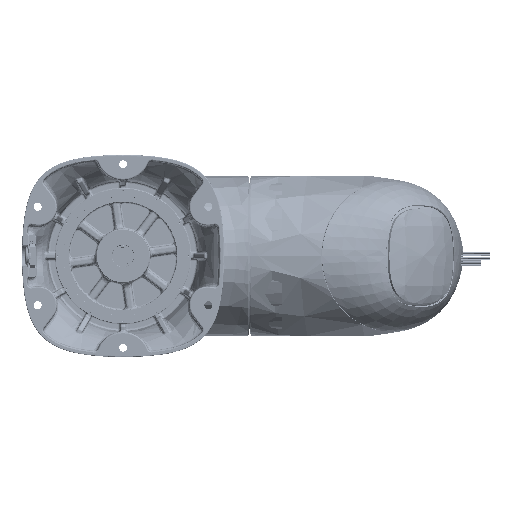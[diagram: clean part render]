
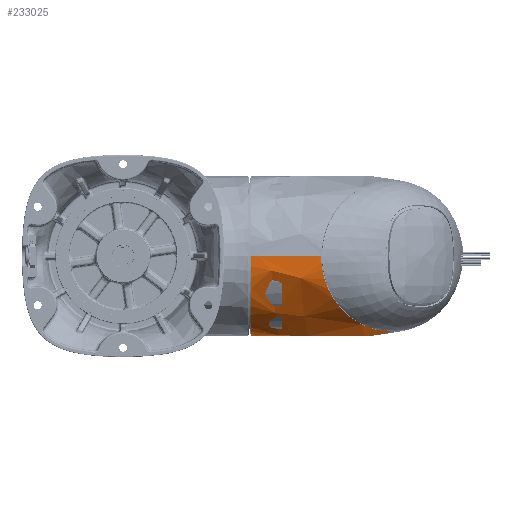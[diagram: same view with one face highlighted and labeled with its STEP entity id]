
A CAD part, front view. The second image highlights one B-rep face of the part: STEP entity #233025.
In plain terms, the highlighted free-form (B-spline) face has degree [5, 5] with [6, 7] control points.
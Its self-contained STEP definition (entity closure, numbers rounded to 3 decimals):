
#201922=CARTESIAN_POINT('',(-312.255,122.216,
-49.48));
#201923=CARTESIAN_POINT('',(-318.061,122.225,
-49.476));
#201924=CARTESIAN_POINT('',(-329.799,122.343,
-49.422));
#201925=CARTESIAN_POINT('',(-348.048,123.019,
-49.204));
#201926=CARTESIAN_POINT('',(-366.743,124.589,
-48.877));
#201927=CARTESIAN_POINT('',(-385.521,127.523,
-48.516));
#201928=CARTESIAN_POINT('',(-403.695,132.153,
-48.249));
#201929=CARTESIAN_POINT('',(-420.847,138.704,
-48.224));
#201930=CARTESIAN_POINT('',(-436.61,147.256,
-48.592));
#201931=CARTESIAN_POINT('',(-447.401,155.294,
-49.276));
#201932=CARTESIAN_POINT('',(-452.97,160.334,
-49.832));
#201933=CARTESIAN_POINT('',(-454.22,161.516,
-49.968));
#202082=CARTESIAN_POINT('',(-454.22,161.516,
-49.968));
#202083=CARTESIAN_POINT('',(-459.878,156.326,
-48.975));
#202084=CARTESIAN_POINT('',(-471.633,145.883,
-47.666));
#202085=CARTESIAN_POINT('',(-488.148,130.951,
-49.575));
#202086=CARTESIAN_POINT('',(-500.529,119.848,
-53.09));
#202087=CARTESIAN_POINT('',(-506.847,114.131,
-54.51));
#202157=CARTESIAN_POINT('',(-312.255,1.527,
-159.509));
#202158=CARTESIAN_POINT('',(-312.257,1.5,
-153.088));
#202159=CARTESIAN_POINT('',(-312.256,2.567,
-140.824));
#202160=CARTESIAN_POINT('',(-312.253,8.346,
-119.415));
#202161=CARTESIAN_POINT('',(-312.255,17.282,
-101.369));
#202162=CARTESIAN_POINT('',(-312.261,29.254,
-85.321));
#202163=CARTESIAN_POINT('',(-312.26,45.05,
-70.863));
#202164=CARTESIAN_POINT('',(-312.256,62.845,
-59.856));
#202165=CARTESIAN_POINT('',(-312.256,81.947,
-52.507));
#202166=CARTESIAN_POINT('',(-312.256,101.838,
-48.862));
#202167=CARTESIAN_POINT('',(-312.253,115.482,
-48.879));
#202168=CARTESIAN_POINT('',(-312.255,122.216,
-49.48));
#202170=CARTESIAN_POINT('',(-312.255,1.527,
-159.509));
#202171=CARTESIAN_POINT('',(-313.927,1.525,
-159.506));
#202172=CARTESIAN_POINT('',(-317.297,1.525,
-159.523));
#202173=CARTESIAN_POINT('',(-320.717,1.534,
-159.496));
#202174=CARTESIAN_POINT('',(-322.44,1.541,
-159.51));
#202176=CARTESIAN_POINT('',(-408.751,5.188,
-159.508));
#202177=CARTESIAN_POINT('',(-398.112,4.154,
-159.425));
#202178=CARTESIAN_POINT('',(-377.452,2.696,
-159.58));
#202179=CARTESIAN_POINT('',(-348.765,1.781,
-159.494));
#202180=CARTESIAN_POINT('',(-330.959,1.576,
-159.576));
#202181=CARTESIAN_POINT('',(-322.44,1.541,
-159.51));
#202183=CARTESIAN_POINT('',(-506.847,114.131,
-54.51));
#202184=CARTESIAN_POINT('',(-501.434,108.119,
-54.491));
#202185=CARTESIAN_POINT('',(-490.998,96.529,
-55.486));
#202186=CARTESIAN_POINT('',(-476.381,80.295,
-59.291));
#202187=CARTESIAN_POINT('',(-463.206,65.663,
-65.058));
#202188=CARTESIAN_POINT('',(-451.42,52.573,
-72.506));
#202189=CARTESIAN_POINT('',(-441.256,41.285,
-81.114));
#202190=CARTESIAN_POINT('',(-432.889,31.992,
-90.202));
#202191=CARTESIAN_POINT('',(-426.145,24.502,
-99.415));
#202192=CARTESIAN_POINT('',(-420.487,18.218,
-109.189));
#202193=CARTESIAN_POINT('',(-415.588,12.778,
-120.381));
#202194=CARTESIAN_POINT('',(-411.785,8.554,
-132.965));
#202195=CARTESIAN_POINT('',(-409.412,5.917,
-145.941));
#202196=CARTESIAN_POINT('',(-408.748,5.184,
-154.935));
#202197=CARTESIAN_POINT('',(-408.751,5.188,
-159.508));
#202278=CARTESIAN_POINT('',(-312.255,1.527,
-159.509));
#209256=VERTEX_POINT('',#202082);
#209257=VERTEX_POINT('',#202087);
#209282=VERTEX_POINT('',#202176);
#209283=VERTEX_POINT('',#202181);
#209785=VERTEX_POINT('',#202278);
#209787=VERTEX_POINT('',#202168);
#232970=CARTESIAN_POINT('',(-494.564,22.401,
-157.842));
#232971=CARTESIAN_POINT('',(-496.963,30.54,
-133.262));
#232972=CARTESIAN_POINT('',(-499.761,57.153,
-82.685));
#232973=CARTESIAN_POINT('',(-511.472,54.705,
-45.073));
#232974=CARTESIAN_POINT('',(-507.032,126.779,
-56.973));
#232975=CARTESIAN_POINT('',(-511.642,162.464,
-51.221));
#232976=CARTESIAN_POINT('',(-512.79,187.923,
-55.751));
#232977=CARTESIAN_POINT('',(-455.152,-0.262,
-166.828));
#232978=CARTESIAN_POINT('',(-456.443,23.368,
-139.581));
#232979=CARTESIAN_POINT('',(-463.054,20.2,
-72.697));
#232980=CARTESIAN_POINT('',(-462.845,73.14,
-77.947));
#232981=CARTESIAN_POINT('',(-471.474,91.075,
-35.349));
#232982=CARTESIAN_POINT('',(-470.127,166.889,
-42.802));
#232983=CARTESIAN_POINT('',(-472.387,179.526,
-51.764));
#232984=CARTESIAN_POINT('',(-416.685,12.77,
-145.391));
#232985=CARTESIAN_POINT('',(-420.518,-24.414,
-142.46));
#232986=CARTESIAN_POINT('',(-418.814,58.972,
-79.245));
#232987=CARTESIAN_POINT('',(-432.406,-7.818,
-58.296));
#232988=CARTESIAN_POINT('',(-425.567,111.413,
-29.606));
#232989=CARTESIAN_POINT('',(-430.124,141.7,
-54.588));
#232990=CARTESIAN_POINT('',(-430.833,173.075,
-49.279));
#232991=CARTESIAN_POINT('',(-370.847,2.365,
-217.736));
#232992=CARTESIAN_POINT('',(-376.316,11.878,
-156.691));
#232993=CARTESIAN_POINT('',(-385.318,-34.561,
-75.347));
#232994=CARTESIAN_POINT('',(-376.532,76.764,
-128.064));
#232995=CARTESIAN_POINT('',(-389.232,76.902,
-14.909));
#232996=CARTESIAN_POINT('',(-389.918,128.668,
-51.457));
#232997=CARTESIAN_POINT('',(-392.481,152.765,
-53.858));
#232998=CARTESIAN_POINT('',(-332.955,-1.466,
-170.164));
#232999=CARTESIAN_POINT('',(-333.207,-0.402,
-189.227));
#233000=CARTESIAN_POINT('',(-341.697,-1.577,
-89.861));
#233001=CARTESIAN_POINT('',(-343.823,35.076,
-80.13));
#233002=CARTESIAN_POINT('',(-345.099,51.813,
-48.143));
#233003=CARTESIAN_POINT('',(-349.064,125.491,
-45.182));
#233004=CARTESIAN_POINT('',(-350.331,141.806,
-53.83));
#233005=CARTESIAN_POINT('',(-290.939,19.714,
-196.368));
#233006=CARTESIAN_POINT('',(-293.476,-6.614,
-180.612));
#233007=CARTESIAN_POINT('',(-298.253,2.724,
-104.063));
#233008=CARTESIAN_POINT('',(-304.373,24.661,
-84.513));
#233009=CARTESIAN_POINT('',(-306.045,61.627,
-46.536));
#233010=CARTESIAN_POINT('',(-308.128,112.728,
-47.294));
#233011=CARTESIAN_POINT('',(-309.37,133.712,
-50.993));
#233012=B_SPLINE_SURFACE_WITH_KNOTS('',5,5,((#232970,#232971,#232972,#232973,
#232974,#232975,#232976),(#232977,#232978,#232979,#232980,#232981,#232982,
#232983),(#232984,#232985,#232986,#232987,#232988,#232989,#232990),(#232991,
#232992,#232993,#232994,#232995,#232996,#232997),(#232998,#232999,#233000,
#233001,#233002,#233003,#233004),(#233005,#233006,#233007,#233008,#233009,
#233010,#233011)),.UNSPECIFIED.,.F.,.F.,.F.,(6,6),(6,1,6),(0.,1.),(0.,
0.5,1.),.UNSPECIFIED.);
#233014=ORIENTED_EDGE('',*,*,#233013,.F.);
#233016=ORIENTED_EDGE('',*,*,#233015,.T.);
#233018=ORIENTED_EDGE('',*,*,#233017,.F.);
#233020=ORIENTED_EDGE('',*,*,#233019,.F.);
#233021=ORIENTED_EDGE('',*,*,#232956,.F.);
#233022=ORIENTED_EDGE('',*,*,#232477,.F.);
#233023=EDGE_LOOP('',(#233014,#233016,#233018,#233020,#233021,#233022));
#233024=FACE_OUTER_BOUND('',#233023,.F.);
#201934=B_SPLINE_CURVE_WITH_KNOTS('',3,(#201922,#201923,#201924,#201925,#201926,
#201927,#201928,#201929,#201930,#201931,#201932,#201933),.UNSPECIFIED.,.F.,.F.,(
4,1,1,1,1,1,1,1,1,4),(0.,0.117,0.233,
0.355,0.477,0.599,0.72,
0.842,0.964,1.),.UNSPECIFIED.);
#202088=B_SPLINE_CURVE_WITH_KNOTS('',3,(#202082,#202083,#202084,#202085,#202086,
#202087),.UNSPECIFIED.,.F.,.F.,(4,1,1,4),(0.,0.333,
0.667,1.),.UNSPECIFIED.);
#202169=B_SPLINE_CURVE_WITH_KNOTS('',3,(#202157,#202158,#202159,#202160,#202161,
#202162,#202163,#202164,#202165,#202166,#202167,#202168),.UNSPECIFIED.,.F.,.F.,(
4,1,1,1,1,1,1,1,1,4),(0.,0.111,0.222,
0.333,0.444,0.556,0.667,
0.778,0.889,1.),.UNSPECIFIED.);
#202175=B_SPLINE_CURVE_WITH_KNOTS('',3,(#202170,#202171,#202172,#202173,
#202174),.UNSPECIFIED.,.F.,.F.,(4,1,4),(0.,0.5,1.),.UNSPECIFIED.);
#202182=B_SPLINE_CURVE_WITH_KNOTS('',3,(#202176,#202177,#202178,#202179,#202180,
#202181),.UNSPECIFIED.,.F.,.F.,(4,1,1,4),(0.,0.333,
0.667,1.),.UNSPECIFIED.);
#202198=B_SPLINE_CURVE_WITH_KNOTS('',3,(#202183,#202184,#202185,#202186,#202187,
#202188,#202189,#202190,#202191,#202192,#202193,#202194,#202195,#202196,
#202197),.UNSPECIFIED.,.F.,.F.,(4,1,1,1,1,1,1,1,1,1,1,1,4),(0.,
0.083,0.167,0.25,0.333,0.417,
0.5,0.583,0.667,0.75,0.833,
0.917,1.),.UNSPECIFIED.);
#232477=EDGE_CURVE('',#209787,#209256,#201934,.T.);
#232956=EDGE_CURVE('',#209256,#209257,#202088,.T.);
#233013=EDGE_CURVE('',#209785,#209787,#202169,.T.);
#233015=EDGE_CURVE('',#209785,#209283,#202175,.T.);
#233017=EDGE_CURVE('',#209282,#209283,#202182,.T.);
#233019=EDGE_CURVE('',#209257,#209282,#202198,.T.);
#233025=ADVANCED_FACE('',(#233024),#233012,.T.);
